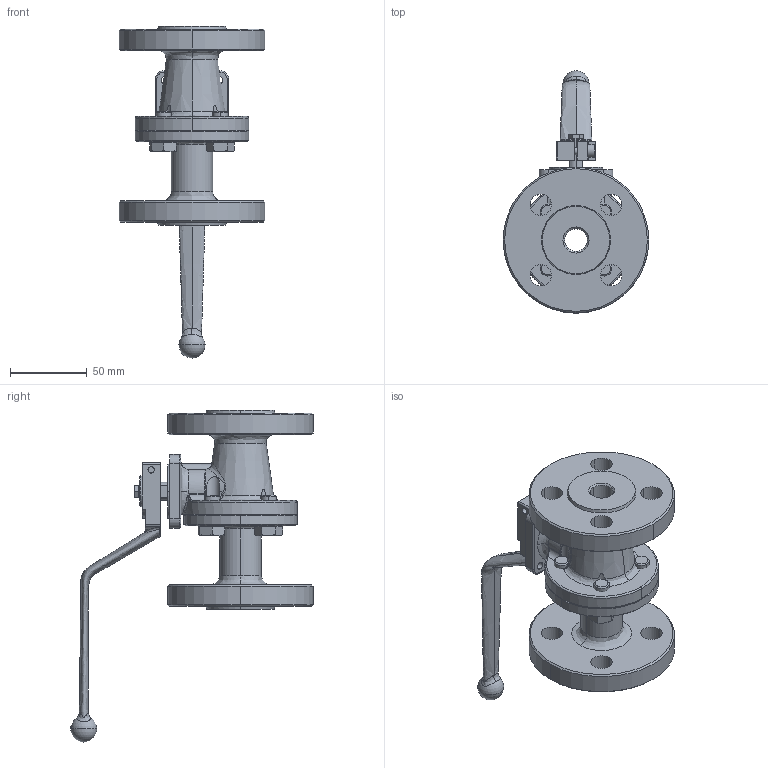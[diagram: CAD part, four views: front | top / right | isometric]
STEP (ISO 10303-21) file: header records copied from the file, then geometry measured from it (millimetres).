
FILE_DESCRIPTION (( 'STEP AP214' ), '1' );
FILE_NAME ('0340015.STEP', '2015-06-15T06:53:08', ( 'pere' ), ( '' ), 'SwSTEP 2.0', 'SolidWorks 2013', '' );
FILE_SCHEMA (( 'AUTOMOTIVE_DESIGN' ));
Length unit declared in the file: millimetre
Products named in the file (9): DIN 912 M5 x 16 --- 16C_DIN 912 M5 x 16 --- 16C; ISO 4017 - M5 x 12-N_ISO 4017 - M5 x 12-N; 5120_17; ISO 4017 - M10 x 20-N_ISO 4017 - M10 x 20-N; M015; EPI15TJ; 0340015L; 0540015C; 0340015
Assembly tree (11 placements, depth 2):
  0340015
    0540015C
    0340015L
    EPI15TJ
    M015
    ISO 4017 - M10 x 20-N_ISO 4017 - M10 x 20-N  x4
    5120_17
    ISO 4017 - M5 x 12-N_ISO 4017 - M5 x 12-N
    DIN 912 M5 x 16 --- 16C_DIN 912 M5 x 16 --- 16C
Bounding box: 95 x 158.2 x 216.5 mm (x, y, z)
Volume: 351095.7 mm3; surface area: 100427.7 mm2
Topology: 11 solids, 11 shells, 502 faces, 1176 edges, 712 vertices
Faces by surface type: cylinder 164, plane 149, cone 104, bspline 59, torus 22, sphere 4
Entity records: 18824 total; most frequent: CARTESIAN_POINT 8840, DIRECTION 2018, ORIENTED_EDGE 1958, EDGE_CURVE 979, AXIS2_PLACEMENT_3D 838, VERTEX_POINT 607, EDGE_LOOP 494, CIRCLE 468
